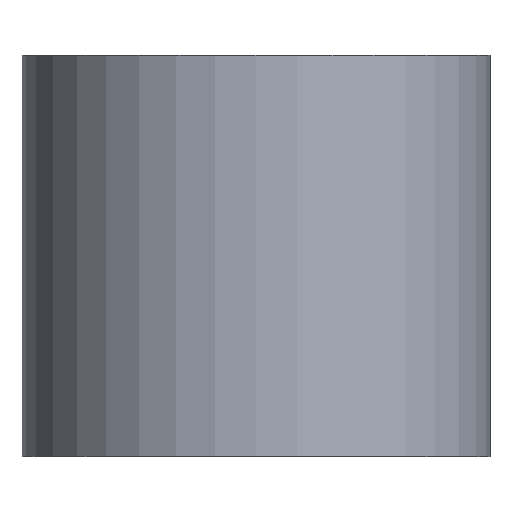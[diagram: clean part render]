
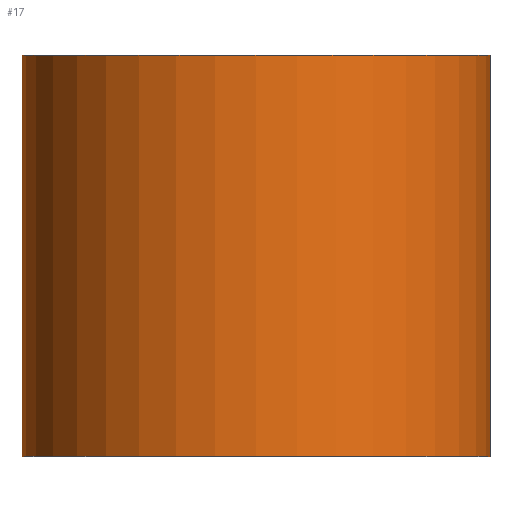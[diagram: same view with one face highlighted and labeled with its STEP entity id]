
A CAD part, top view. The second image highlights one B-rep face of the part: STEP entity #17.
In plain terms, the highlighted cylindrical face has radius 7 mm (diameter 14 mm), a full revolution.
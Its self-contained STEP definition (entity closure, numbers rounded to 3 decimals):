
#17 = ADVANCED_FACE('',(#18),#32,.T.);
#18 = FACE_BOUND('',#19,.T.);
#19 = EDGE_LOOP('',(#20,#50,#77,#78));
#20 = ORIENTED_EDGE('',*,*,#21,.T.);
#21 = EDGE_CURVE('',#22,#24,#26,.T.);
#22 = VERTEX_POINT('',#23);
#23 = CARTESIAN_POINT('',(7.,82.,300.));
#24 = VERTEX_POINT('',#25);
#25 = CARTESIAN_POINT('',(7.,94.,300.));
#26 = SEAM_CURVE('',#27,(#31,#43),.PCURVE_S1.);
#27 = LINE('',#28,#29);
#28 = CARTESIAN_POINT('',(7.,82.,300.));
#29 = VECTOR('',#30,1.);
#30 = DIRECTION('',(-0.,1.,-0.));
#31 = PCURVE('',#32,#37);
#32 = CYLINDRICAL_SURFACE('',#33,7.);
#33 = AXIS2_PLACEMENT_3D('',#34,#35,#36);
#34 = CARTESIAN_POINT('',(0.,82.,300.));
#35 = DIRECTION('',(0.,-1.,0.));
#36 = DIRECTION('',(1.,0.,0.));
#37 = DEFINITIONAL_REPRESENTATION('',(#38),#42);
#38 = LINE('',#39,#40);
#39 = CARTESIAN_POINT('',(0.,0.));
#40 = VECTOR('',#41,1.);
#41 = DIRECTION('',(0.,-1.));
#42 = ( GEOMETRIC_REPRESENTATION_CONTEXT(2) 
PARAMETRIC_REPRESENTATION_CONTEXT() REPRESENTATION_CONTEXT('2D SPACE',''
  ) );
#43 = PCURVE('',#32,#44);
#44 = DEFINITIONAL_REPRESENTATION('',(#45),#49);
#45 = LINE('',#46,#47);
#46 = CARTESIAN_POINT('',(6.283,0.));
#47 = VECTOR('',#48,1.);
#48 = DIRECTION('',(0.,-1.));
#49 = ( GEOMETRIC_REPRESENTATION_CONTEXT(2) 
PARAMETRIC_REPRESENTATION_CONTEXT() REPRESENTATION_CONTEXT('2D SPACE',''
  ) );
#50 = ORIENTED_EDGE('',*,*,#51,.T.);
#51 = EDGE_CURVE('',#24,#24,#52,.T.);
#52 = SURFACE_CURVE('',#53,(#58,#65),.PCURVE_S1.);
#53 = CIRCLE('',#54,7.);
#54 = AXIS2_PLACEMENT_3D('',#55,#56,#57);
#55 = CARTESIAN_POINT('',(0.,94.,300.));
#56 = DIRECTION('',(0.,-1.,0.));
#57 = DIRECTION('',(1.,0.,0.));
#58 = PCURVE('',#32,#59);
#59 = DEFINITIONAL_REPRESENTATION('',(#60),#64);
#60 = LINE('',#61,#62);
#61 = CARTESIAN_POINT('',(0.,-12.));
#62 = VECTOR('',#63,1.);
#63 = DIRECTION('',(1.,0.));
#64 = ( GEOMETRIC_REPRESENTATION_CONTEXT(2) 
PARAMETRIC_REPRESENTATION_CONTEXT() REPRESENTATION_CONTEXT('2D SPACE',''
  ) );
#65 = PCURVE('',#66,#71);
#66 = PLANE('',#67);
#67 = AXIS2_PLACEMENT_3D('',#68,#69,#70);
#68 = CARTESIAN_POINT('',(0.,94.,300.));
#69 = DIRECTION('',(-0.,-1.,-0.));
#70 = DIRECTION('',(0.,0.,-1.));
#71 = DEFINITIONAL_REPRESENTATION('',(#72),#76);
#72 = CIRCLE('',#73,7.);
#73 = AXIS2_PLACEMENT_2D('',#74,#75);
#74 = CARTESIAN_POINT('',(0.,0.));
#75 = DIRECTION('',(0.,1.));
#76 = ( GEOMETRIC_REPRESENTATION_CONTEXT(2) 
PARAMETRIC_REPRESENTATION_CONTEXT() REPRESENTATION_CONTEXT('2D SPACE',''
  ) );
#77 = ORIENTED_EDGE('',*,*,#21,.F.);
#78 = ORIENTED_EDGE('',*,*,#79,.F.);
#79 = EDGE_CURVE('',#22,#22,#80,.T.);
#80 = SURFACE_CURVE('',#81,(#86,#93),.PCURVE_S1.);
#81 = CIRCLE('',#82,7.);
#82 = AXIS2_PLACEMENT_3D('',#83,#84,#85);
#83 = CARTESIAN_POINT('',(0.,82.,300.));
#84 = DIRECTION('',(0.,-1.,0.));
#85 = DIRECTION('',(1.,0.,0.));
#86 = PCURVE('',#32,#87);
#87 = DEFINITIONAL_REPRESENTATION('',(#88),#92);
#88 = LINE('',#89,#90);
#89 = CARTESIAN_POINT('',(0.,0.));
#90 = VECTOR('',#91,1.);
#91 = DIRECTION('',(1.,0.));
#92 = ( GEOMETRIC_REPRESENTATION_CONTEXT(2) 
PARAMETRIC_REPRESENTATION_CONTEXT() REPRESENTATION_CONTEXT('2D SPACE',''
  ) );
#93 = PCURVE('',#94,#99);
#94 = PLANE('',#95);
#95 = AXIS2_PLACEMENT_3D('',#96,#97,#98);
#96 = CARTESIAN_POINT('',(0.,82.,300.));
#97 = DIRECTION('',(-0.,-1.,-0.));
#98 = DIRECTION('',(0.,0.,-1.));
#99 = DEFINITIONAL_REPRESENTATION('',(#100),#104);
#100 = CIRCLE('',#101,7.);
#101 = AXIS2_PLACEMENT_2D('',#102,#103);
#102 = CARTESIAN_POINT('',(0.,0.));
#103 = DIRECTION('',(0.,1.));
#104 = ( GEOMETRIC_REPRESENTATION_CONTEXT(2) 
PARAMETRIC_REPRESENTATION_CONTEXT() REPRESENTATION_CONTEXT('2D SPACE',''
  ) );
